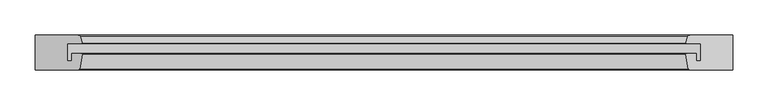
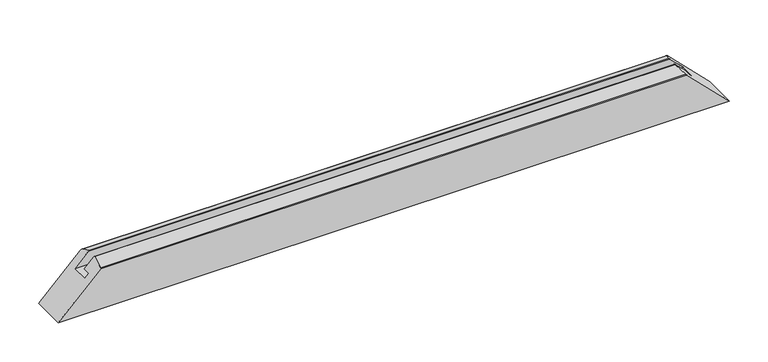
"""IFC4 building model written with IfcOpenShell, lengths in millimetres: proxy geometry, Weiku - Montante - Caixilho fixo 02.2.01.005 : Weiku - Montante - Caixilho fixo 02.2.01.005."""

from ifc_helpers import new_model, si_unit, frame, origin, place, context, project, spatial, ellipse_curve, source, transform, mapped, element, save
from ifc_brep_helpers import plane_surface, cylinder_surface, advanced_brep


def generic_models_027d7f44(model_context):
    return source(origin(), model_context, "Body", "AdvancedBrep", [
        advanced_brep(
        [(-430.118227, 38.5070552, 66.881773), (-432.6019557, 47.7764571, 64.3980443), (-435.4997332, 50.0, 61.5002668), (-497.0, 50.0, 0.0), (-497.0, 0.0, 0.0), (-434.5355572, 0.0, 62.4644428), (-433.5489094, 0.8371317, 63.4510906), (-429.9998537, 22.3371317, 67.0001463), (-430.9865015, 23.5, 66.0134985), (-445.0009154, 23.5, 51.9990846), (-445.0009154, 12.5, 51.9990846), (-451.0, 12.5, 46.0), (-451.0, 37.5, 46.0), (-430.8909676, 37.5, 66.1090324), (432.6019557, 47.7764571, 64.3980443), (430.118227, 38.5070552, 66.881773), (430.8909676, 37.5, 66.1090324), (451.0, 37.5, 46.0), (451.0, 12.5, 46.0), (445.0009154, 12.5, 51.9990846), (445.0009154, 23.5, 51.9990846), (430.9865015, 23.5, 66.0134985), (429.9998537, 22.3371317, 67.0001463), (433.5489094, 0.8371317, 63.4510906), (434.5355572, 0.0, 62.4644428), (497.0, 0.0, 0.0), (497.0, 50.0, 0.0), (435.4997332, 50.0, 61.5002668)],
        [
            (0, 1),
            (1, 2, ellipse_curve(frame((-435.4997332, 47.0, 61.5002668), z_axis=(-0.7071067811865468, 0.0, 0.7071067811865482), x_axis=(-0.7071067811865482, 0.0, -0.7071067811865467)), 4.2426407, 3.0)),
            (2, 3),
            (3, 4),
            (4, 5),
            (5, 6, ellipse_curve(frame((-434.5355572, 1.0, 62.4644428), z_axis=(-0.7071067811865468, 0.0, 0.7071067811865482), x_axis=(-0.7071067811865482, 0.0, -0.7071067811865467)), 1.4142136, 1.0)),
            (6, 7),
            (7, 8, ellipse_curve(frame((-430.9865015, 22.5, 66.0134985), z_axis=(-0.7071067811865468, 0.0, 0.7071067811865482), x_axis=(-0.7071067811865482, 0.0, -0.7071067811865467)), 1.4142136, 1.0)),
            (8, 9),
            (9, 10),
            (10, 11),
            (11, 12),
            (12, 13),
            (13, 0, ellipse_curve(frame((-430.8909676, 38.3, 66.1090324), z_axis=(-0.7071067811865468, 0.0, 0.7071067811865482), x_axis=(-0.7071067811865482, 0.0, -0.7071067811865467)), 1.1313708, 0.8)),
            (14, 15),
            (15, 16, ellipse_curve(frame((430.8909676, 38.3, 66.1090324), z_axis=(0.7071067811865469, 0.0, 0.7071067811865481), x_axis=(-0.7071067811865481, 0.0, 0.7071067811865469)), 1.1313708, 0.8)),
            (16, 17),
            (17, 18),
            (18, 19),
            (19, 20),
            (20, 21),
            (21, 22, ellipse_curve(frame((430.9865015, 22.5, 66.0134985), z_axis=(0.7071067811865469, 0.0, 0.7071067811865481), x_axis=(-0.7071067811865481, 0.0, 0.7071067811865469)), 1.4142136, 1.0)),
            (22, 23),
            (23, 24, ellipse_curve(frame((434.5355572, 1.0, 62.4644428), z_axis=(0.7071067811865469, 0.0, 0.7071067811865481), x_axis=(-0.7071067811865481, 0.0, 0.7071067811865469)), 1.4142136, 1.0)),
            (24, 25),
            (25, 26),
            (26, 27),
            (27, 14, ellipse_curve(frame((435.4997332, 47.0, 61.5002668), z_axis=(0.7071067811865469, 0.0, 0.7071067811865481), x_axis=(-0.7071067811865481, 0.0, 0.7071067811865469)), 4.2426407, 3.0)),
            (0, 15),
            (14, 1),
            (27, 2),
            (26, 3),
            (25, 4),
            (24, 5),
            (23, 6),
            (22, 7),
            (21, 8),
            (20, 9),
            (19, 10),
            (18, 11),
            (17, 12),
            (16, 13),
        ],
        [
            plane_surface(frame((-567.0, -15.0, -70.0), z_axis=(-0.7071067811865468, 0.0, 0.7071067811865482), x_axis=(0.0, 1.0, 0.0))),
            plane_surface(frame((427.0, -15.0, 70.0), z_axis=(0.7071067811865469, 0.0, 0.7071067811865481), x_axis=(0.0, 1.0, 0.0))),
            plane_surface(frame((-497.0, 38.5070552, 66.881773), z_axis=(0.0, 0.2588190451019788, 0.9659258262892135), x_axis=(1.0, 0.0, 0.0))),
            cylinder_surface(frame((-497.0, 47.0, 61.5002668), z_axis=(-1.0, 0.0, 0.0), x_axis=(0.0, -1.0, 0.0)), 3.0),
            plane_surface(frame((-497.0, 50.0, 61.5002668), z_axis=(0.0, 1.0, 0.0), x_axis=(1.0, 0.0, 0.0))),
            plane_surface(frame((-497.0, 50.0, 0.0), z_axis=(0.0, 0.0, -1.0), x_axis=(1.0, 0.0, 0.0))),
            plane_surface(frame((-497.0, 0.0, 0.0), z_axis=(0.0, -1.0, 0.0), x_axis=(1.0, 0.0, 0.0))),
            cylinder_surface(frame((-497.0, 1.0, 62.4644428), z_axis=(-1.0, 0.0, 0.0), x_axis=(0.0, 1.0, 0.0)), 1.0),
            plane_surface(frame((-497.0, 0.8371317, 63.4510906), z_axis=(0.0, -0.16286828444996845, 0.9866478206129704), x_axis=(1.0, 0.0, 0.0))),
            cylinder_surface(frame((-497.0, 22.5, 66.0134985), z_axis=(-1.0, 0.0, 0.0), x_axis=(0.0, 1.0, 0.0)), 1.0),
            plane_surface(frame((-497.0, 23.5, 66.0134985), z_axis=(0.0, 1.0, 0.0), x_axis=(1.0, 0.0, 0.0))),
            plane_surface(frame((-497.0, 23.5, 51.9990846), z_axis=(0.0, 0.0, -1.0), x_axis=(1.0, 0.0, 0.0))),
            plane_surface(frame((-497.0, 12.5, 51.9990846), z_axis=(0.0, 1.0, 0.0), x_axis=(1.0, 0.0, 0.0))),
            plane_surface(frame((-497.0, 12.5, 46.0), z_axis=(0.0, 0.0, 1.0), x_axis=(1.0, 0.0, 0.0))),
            plane_surface(frame((-497.0, 37.5, 46.0), z_axis=(0.0, -1.0, 0.0), x_axis=(1.0, 0.0, 0.0))),
            cylinder_surface(frame((-497.0, 38.3, 66.1090324), z_axis=(-1.0, 0.0, 0.0), x_axis=(0.0, -1.0, 0.0)), 0.8),
        ],
        [
            (0, [[1, 2, 3, 4, 5, 6, 7, 8, 9, 10, 11, 12, 13, 14]]),
            (1, [[15, 16, 17, 18, 19, 20, 21, 22, 23, 24, 25, 26, 27, 28]]),
            (2, [[-1, 29, -15, 30]]),
            (3, [[-2, -30, -28, 31]]),
            (4, [[32, -3, -31, -27]]),
            (5, [[-32, -26, 33, -4]]),
            (6, [[-33, -25, 34, -5]]),
            (7, [[-6, -34, -24, 35]]),
            (8, [[-7, -35, -23, 36]]),
            (9, [[-8, -36, -22, 37]]),
            (10, [[-9, -37, -21, 38]]),
            (11, [[-10, -38, -20, 39]]),
            (12, [[-11, -39, -19, 40]]),
            (13, [[-12, -40, -18, 41]]),
            (14, [[-13, -41, -17, 42]]),
            (15, [[-14, -42, -16, -29]]),
        ],
    ),
    ])


if __name__ == "__main__":
    model = new_model("IFC4")
    model_context = context("Model", 3, world=origin())
    ifc_project = project(units=[si_unit("LENGTHUNIT", "METRE", prefix="MILLI")], contexts=[model_context])
    site = spatial("IfcSite", under=ifc_project)
    building = spatial("IfcBuilding", under=site)
    placement = place(None, origin())
    generic_models_shape = generic_models_027d7f44(model_context)
    element("IfcBuildingElementProxy", 1, Name="Weiku - Montante - Caixilho fixo 02.2.01.005 : Weiku - Montante - Caixilho fixo 02.2.01.005", ObjectType="Weiku - Montante - Caixilho fixo 02.2.01.005 : Weiku - Montante - Caixilho fixo 02.2.01.005", at=placement, inside=building, context=model_context, shape_type="MappedRepresentation", body=[
        mapped(generic_models_shape, transform((0.0, 0.0, 0.0), x_axis=(1.0, 0.0, 0.0), y_axis=(0.0, 1.0, 0.0), z_axis=(0.0, 0.0, 1.0))),
    ])
    save(model, "model.ifc")
